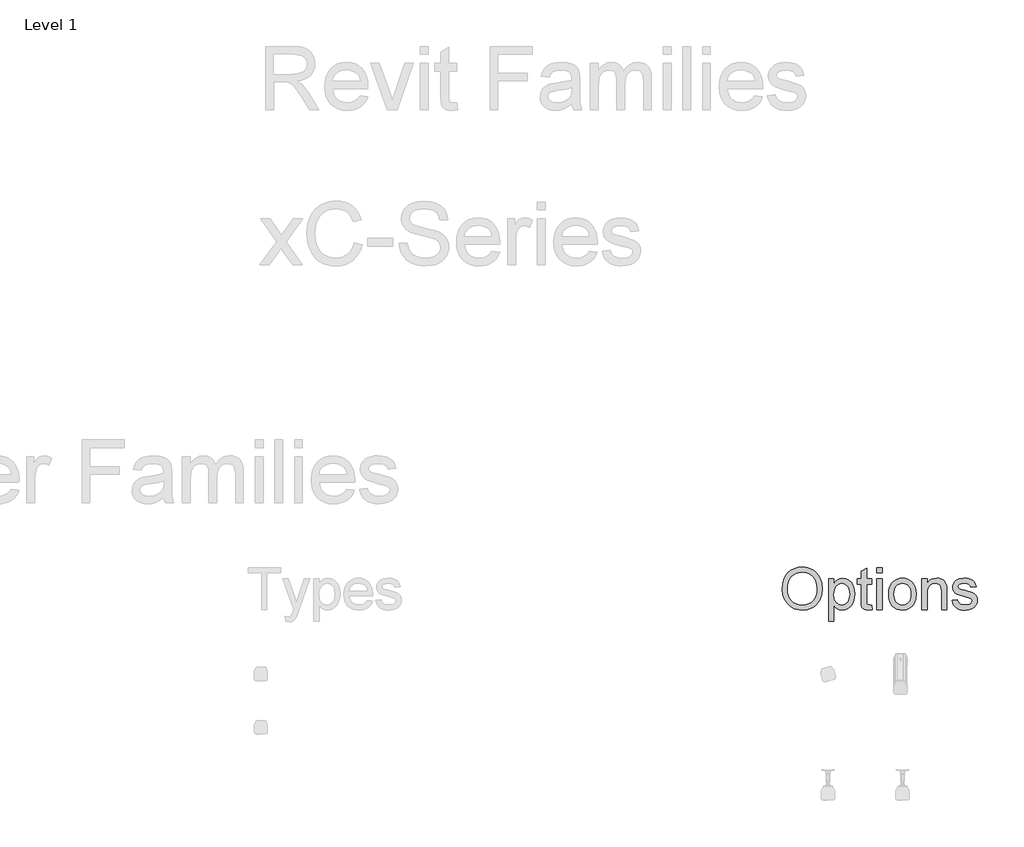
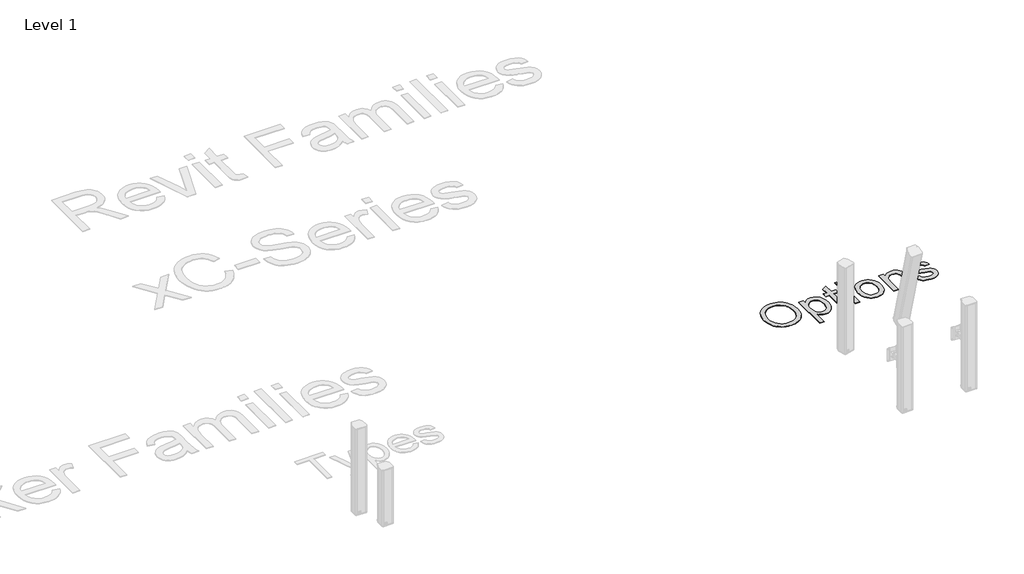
# One storey, part 8 of 8: 2 proxies.
"""IFC4 building model written with IfcOpenShell, lengths in millimetres."""

from ifc_helpers import new_model, si_unit, origin, origin_with_axes, place, context, project, spatial, polyline, outline, extrude, element, save

model = new_model("IFC4")

# Units and contexts
model_context = context("Model", 3, world=origin())
ifc_project = project(units=[si_unit("LENGTHUNIT", "METRE", prefix="MILLI")], contexts=[model_context])

# Site, building, storey
site = spatial("IfcSite", under=ifc_project)
building = spatial("IfcBuilding", under=site)
storey = spatial("IfcBuildingStorey", under=building, Name="Level 1", Elevation=0.0)

# Proxies
placement = place(None, origin())
element("IfcBuildingElementProxy", 1, Name="400mm Arial", ObjectType="400mm Arial", at=placement, inside=storey, context=model_context, shape_type="SweptSolid", body=[
    extrude(outline(polyline([(-6462.261333, 17542.0194987), (-6458.9974836, 17587.9704339), (-6449.2059353, 17628.6489968), (-6432.8866881, 17664.0551876), (-6410.0397421, 17694.1890063), (-6382.0340011, 17718.2494348), (-6350.238369, 17735.4354552), (-6314.6528458, 17745.7470674), (-6275.2774315, 17749.1842715), (-6248.9215484, 17747.57028), (-6223.892725, 17742.7283055), (-6200.1909613, 17734.6583482), (-6177.8162572, 17723.3604078), (-6157.3962762, 17709.1752161), (-6139.5586815, 17692.4435044), (-6124.3034732, 17673.1652729), (-6111.6306512, 17651.3405215), (-6101.671726, 17627.4654031), (-6094.558208, 17602.0360707), (-6088.8673936, 17546.5147639), (-6094.8570953, 17490.2522165), (-6102.3442224, 17464.4701971), (-6112.8262004, 17440.2543472), (-6126.0549528, 17418.2442857), (-6141.7824031, 17399.0796313), (-6160.0085513, 17382.7603841), (-6180.7333974, 17369.2865442), (-6226.4153339, 17351.2098396), (-6275.5643633, 17345.1842715), (-6302.3805328, 17346.8490738), (-6327.7381322, 17351.8434807), (-6351.6371616, 17360.1674923), (-6374.0776209, 17371.8211086), (-6394.473691, 17386.3530096), (-6412.2395527, 17403.3118756), (-6427.3752061, 17422.6977066), (-6439.8806512, 17444.5105025), (-6456.6661625, 17491.91403), (-6462.261333, 17542.0194987)]), holes=[polyline([(-6413.291636, 17541.541279), (-6410.843749, 17509.0761393), (-6403.5000877, 17480.2574249), (-6391.2606524, 17455.0851356), (-6374.1254429, 17433.5592715), (-6353.2959862, 17416.3194514), (-6329.9738093, 17404.0052942), (-6304.1589123, 17396.6167999), (-6275.8512951, 17394.1539684), (-6247.0594805, 17396.6407108), (-6220.9397184, 17404.1009381), (-6197.4920089, 17416.5346502), (-6176.7163519, 17433.9418472), (-6159.7066751, 17455.92202), (-6147.5569059, 17482.0746597), (-6140.2670444, 17512.3997662), (-6137.8370906, 17546.8973396), (-6141.9976019, 17590.2479552), (-6154.479136, 17627.7164684), (-6174.9588946, 17658.3583955), (-6203.1140792, 17681.2292525), (-6237.0796332, 17695.468244), (-6274.9904997, 17700.2145745), (-6302.3147776, 17697.9280866), (-6327.6663993, 17691.0686228), (-6351.0453647, 17679.6361831), (-6372.4516739, 17663.6307677), (-6390.3191573, 17642.2812471), (-6403.0816455, 17614.8164921), (-6410.7391384, 17581.2365027), (-6413.291636, 17541.541279)])]), origin_with_axes(), (0.0, 0.0, 1.0), 5.0),
    extrude(outline(polyline([(-6027.6552724, 17241.1236654), (-6027.6552724, 17639.0024533), (-5978.6855754, 17639.0024533), (-5978.6855754, 17590.9891957), (-5962.7130375, 17614.6730262), (-5944.8276209, 17631.590048), (-5923.9772421, 17641.740261), (-5899.1098179, 17645.1236654), (-5865.9931038, 17640.3892904), (-5837.0369012, 17626.1861654), (-5813.4606701, 17603.3750858), (-5796.4838709, 17572.8168472), (-5786.2260584, 17536.7351711), (-5782.8067875, 17497.353779), (-5786.6684116, 17455.4736891), (-5798.2532838, 17418.0171313), (-5817.1907838, 17386.885029), (-5843.1102913, 17363.9783055), (-5873.2979097, 17349.88278), (-5905.0397421, 17345.1842715), (-5927.5519343, 17348.328566), (-5947.6491171, 17357.7614495), (-5964.8530707, 17372.000441), (-5978.6855754, 17389.5630593), (-5978.6855754, 17241.1236654), (-6027.6552724, 17241.1236654)]), holes=[polyline([(-5978.6855754, 17492.8585139), (-5973.3892923, 17448.9579457), (-5966.7689384, 17431.9572355), (-5957.5004429, 17418.2562411), (-5934.0557222, 17400.1795366), (-5920.6386708, 17395.6603605), (-5906.0918254, 17394.1539684), (-5891.3357589, 17395.7141602), (-5877.6736199, 17400.3947355), (-5853.6311247, 17419.1170366), (-5844.0697196, 17433.3141839), (-5837.2401446, 17450.9425574), (-5831.7764845, 17496.4929836), (-5837.1086341, 17540.1544419), (-5843.7738212, 17557.2866625), (-5853.105083, 17571.2865442), (-5876.5139372, 17589.9371124), (-5889.778556, 17594.5997544), (-5904.0833027, 17596.1539684), (-5918.3432163, 17594.5011216), (-5931.7602677, 17589.5425811), (-5956.0657838, 17569.7084192), (-5965.9619426, 17554.9882191), (-5973.0306275, 17537.2731682), (-5977.2718384, 17516.5632665), (-5978.6855754, 17492.8585139)])]), origin_with_axes(), (0.0, 0.0, 1.0), 5.0),
    extrude(outline(polyline([(-5623.6552724, 17392.1454457), (-5617.5340603, 17349.8708245), (-5654.1656891, 17345.1842715), (-5677.6701872, 17347.2167052), (-5695.1969391, 17353.3140063), (-5707.5828292, 17362.7110233), (-5715.6647421, 17374.6426048), (-5720.1121853, 17395.1343188), (-5721.5946663, 17430.2117336), (-5721.5946663, 17590.0327563), (-5758.3219391, 17590.0327563), (-5758.3219391, 17639.0024533), (-5721.5946663, 17639.0024533), (-5721.5946663, 17708.918173), (-5672.6249694, 17737.7069987), (-5672.6249694, 17639.0024533), (-5623.6552724, 17639.0024533), (-5623.6552724, 17590.0327563), (-5672.6249694, 17590.0327563), (-5672.6249694, 17431.6463927), (-5670.042583, 17406.3963927), (-5661.6737383, 17397.4536843), (-5644.9838709, 17394.1539684), (-5623.6552724, 17392.1454457)])), origin_with_axes(), (0.0, 0.0, 1.0), 5.0),
    extrude(outline(polyline([(-5574.6855754, 17351.3054836), (-5574.6855754, 17639.0024533), (-5525.7158785, 17639.0024533), (-5525.7158785, 17351.3054836), (-5574.6855754, 17351.3054836)])), origin_with_axes(), (0.0, 0.0, 1.0), 5.0),
    extrude(outline(polyline([(-5574.6855754, 17694.0933624), (-5574.6855754, 17743.0630593), (-5525.7158785, 17743.0630593), (-5525.7158785, 17694.0933624), (-5574.6855754, 17694.0933624)])), origin_with_axes(), (0.0, 0.0, 1.0), 5.0),
    extrude(outline(polyline([(-5464.5037572, 17495.1539684), (-5461.8556157, 17532.4132606), (-5453.911191, 17564.5197355), (-5440.6704831, 17591.4733931), (-5422.1334921, 17613.2742336), (-5403.4709684, 17627.20836), (-5382.871655, 17637.1613074), (-5360.3355518, 17643.1330759), (-5335.8626588, 17645.1236654), (-5308.8462348, 17642.6996893), (-5284.4181749, 17635.427761), (-5262.5784791, 17623.3078806), (-5243.3271474, 17606.340048), (-5227.6146415, 17585.0981268), (-5216.391423, 17560.1559807), (-5209.6574919, 17531.5136098), (-5207.4128482, 17499.1710139), (-5211.3820716, 17449.6991862), (-5223.2897421, 17412.0393851), (-5242.7891502, 17383.8363785), (-5269.5335868, 17362.7349343), (-5301.2993302, 17349.5719372), (-5335.8626588, 17345.1842715), (-5363.273614, 17347.5992809), (-5387.9288283, 17354.8443093), (-5409.8283015, 17366.9193567), (-5428.9720338, 17383.824423), (-5444.5171628, 17405.2725764), (-5455.6208264, 17430.9768851), (-5462.2830245, 17460.9373491), (-5464.5037572, 17495.1539684)]), holes=[polyline([(-5415.5340603, 17495.2496124), (-5414.1173344, 17471.4970378), (-5409.8671569, 17450.9306019), (-5402.7835276, 17433.5503048), (-5392.8664466, 17419.3561465), (-5380.8033548, 17408.3301936), (-5367.2816929, 17400.4545129), (-5352.3014608, 17395.7291045), (-5335.8626588, 17394.1539684), (-5319.5075451, 17395.7380712), (-5304.5870906, 17400.4903794), (-5291.1012951, 17408.4108931), (-5279.0501588, 17419.4996124), (-5269.1330778, 17433.8342478), (-5262.0494485, 17451.4925101), (-5257.799271, 17472.4743993), (-5256.3825451, 17496.7799154), (-5257.8082376, 17519.7792939), (-5262.085315, 17539.8077326), (-5269.2137774, 17556.8652314), (-5279.1936247, 17570.9517904), (-5291.2895941, 17581.9777433), (-5304.766423, 17589.8534239), (-5319.6241112, 17594.5788323), (-5335.8626588, 17596.1539684), (-5352.3014608, 17594.58481), (-5367.2816929, 17589.8773349), (-5380.8033548, 17582.031543), (-5392.8664466, 17571.0474343), (-5402.7835276, 17556.8951202), (-5409.8671569, 17539.5447118), (-5414.1173344, 17518.9962092), (-5415.5340603, 17495.2496124)])]), origin_with_axes(), (0.0, 0.0, 1.0), 5.0),
    extrude(outline(polyline([(-5152.3219391, 17351.3054836), (-5152.3219391, 17639.0024533), (-5103.3522421, 17639.0024533), (-5103.3522421, 17598.8319987), (-5086.3395764, 17619.0846029), (-5065.9076398, 17633.5507487), (-5042.0564324, 17642.2304362), (-5014.7859542, 17645.1236654), (-4990.647815, 17642.7923444), (-4968.5421095, 17635.7983813), (-4950.1067402, 17625.0145271), (-4936.9796095, 17611.3135328), (-4928.0727677, 17594.7312648), (-4922.2982648, 17575.3035896), (-4919.7158785, 17527.9598396), (-4919.7158785, 17351.3054836), (-4968.6855754, 17351.3054836), (-4968.6855754, 17521.3604078), (-4970.0963235, 17546.6821408), (-4974.3285679, 17564.6871124), (-4982.1355044, 17577.5870887), (-4994.2703292, 17587.5938358), (-5009.8244249, 17594.0139353), (-5027.8891739, 17596.1539684), (-5056.5704002, 17591.3478605), (-5081.0193822, 17576.9295366), (-5090.7900084, 17565.1593543), (-5097.7690271, 17549.0732393), (-5101.9564384, 17528.6711914), (-5103.3522421, 17503.9532108), (-5103.3522421, 17351.3054836), (-5152.3219391, 17351.3054836)])), origin_with_axes(), (0.0, 0.0, 1.0), 5.0),
    extrude(outline(polyline([(-4870.7461815, 17437.0024533), (-4821.7764845, 17443.1236654), (-4814.0532364, 17422.1776427), (-4799.1088709, 17406.7789684), (-4776.847744, 17397.3102184), (-4747.1742118, 17394.1539684), (-4717.8593444, 17397.0471976), (-4697.2480754, 17405.7268851), (-4685.0534732, 17418.3040631), (-4680.9886057, 17432.8897639), (-4685.0773841, 17445.371298), (-4697.3437194, 17454.8878699), (-4747.7480754, 17468.8518851), (-4821.4895527, 17492.8106919), (-4840.1520764, 17504.8498728), (-4853.6737383, 17520.7865442), (-4861.8871616, 17539.6044893), (-4864.6249694, 17560.2874911), (-4862.4251588, 17579.2608576), (-4855.8257269, 17596.775654), (-4845.4244485, 17612.1384618), (-4831.8190982, 17624.6558624), (-4800.6869959, 17639.1459192), (-4758.5558406, 17645.1236654), (-4726.6824978, 17642.7206114), (-4698.9696663, 17635.5114495), (-4676.6846285, 17624.2015536), (-4661.0946663, 17609.496298), (-4650.7651209, 17590.3077326), (-4644.261333, 17565.5479078), (-4693.23103, 17559.4266957), (-4699.4120196, 17574.8373254), (-4711.6424883, 17586.4461086), (-4730.0419911, 17593.7270035), (-4754.730083, 17596.1539684), (-4782.8494012, 17593.8346029), (-4801.5956133, 17586.8765063), (-4812.1403576, 17576.8338927), (-4815.6552724, 17565.260976), (-4809.8209921, 17551.010029), (-4791.5529997, 17540.2022639), (-4749.3740224, 17529.7770745), (-4677.4976019, 17506.7268851), (-4658.51228, 17495.7039211), (-4644.1178671, 17480.6160896), (-4635.0436483, 17461.4155688), (-4632.0189088, 17438.0545366), (-4635.56969, 17413.9044419), (-4646.2220338, 17391.1890063), (-4663.5694533, 17371.6895982), (-4687.2054618, 17357.1875858), (-4715.7551777, 17348.1851), (-4747.8437194, 17345.1842715), (-4774.1996024, 17346.630886), (-4797.2199031, 17350.9707298), (-4816.9046214, 17358.2038027), (-4833.2537572, 17368.3301048), (-4846.6080423, 17381.3018141), (-4857.308208, 17397.0711086), (-4865.3542544, 17415.6379883), (-4870.7461815, 17437.0024533)])), origin_with_axes(), (0.0, 0.0, 1.0), 5.0),
])
element("IfcBuildingElementProxy", 2, Name="600mm Arial", ObjectType="600mm Arial", at=placement, inside=storey, context=model_context, shape_type="SweptSolid", body=[
    extrude(outline(polyline([(-11309.2935955, 22041.6162982), (-11309.2935955, 22632.385529), (-11054.7262878, 22632.385529), (-10986.3068167, 22628.401154), (-10936.5291724, 22616.448029), (-10917.3194369, 22606.9468271), (-10900.1469609, 22594.3807213), (-10885.0117446, 22578.7497117), (-10871.9137878, 22560.0537982), (-10861.3443768, 22539.2980891), (-10853.7947974, 22517.4876924), (-10847.755134, 22470.7028367), (-10850.2566364, 22440.3602886), (-10857.7611436, 22412.5057213), (-10870.2686556, 22387.1391347), (-10887.7791724, 22364.260529), (-10910.5180547, 22344.6000722), (-10938.7106628, 22328.8879328), (-10972.356997, 22317.1241107), (-11011.4570571, 22309.3086059), (-10987.1181148, 22293.4071636), (-10969.4859032, 22277.7220674), (-10909.630134, 22201.7124521), (-10811.1205186, 22041.6162982), (-10896.9378263, 22041.6162982), (-10973.8128263, 22164.0682213), (-11029.3416724, 22245.1259136), (-11049.9847013, 22268.7617309), (-11068.3560955, 22283.4191828), (-11103.4762878, 22297.4816828), (-11146.3128263, 22300.0778367), (-11235.4474417, 22300.0778367), (-11235.4474417, 22041.6162982), (-11309.2935955, 22041.6162982)]), holes=[polyline([(-11235.4474417, 22373.9239905), (-11070.1589801, 22373.9239905), (-11022.6890282, 22376.5381732), (-10985.8560955, 22384.3807213), (-10958.1277301, 22397.9744713), (-10937.9714801, 22417.8422597), (-10925.6938359, 22441.8747117), (-10921.6012878, 22467.9624521), (-10923.5529104, 22486.8476684), (-10929.4077782, 22503.9840867), (-10939.1658912, 22519.3717069), (-10952.8272494, 22533.010529), (-10970.7073575, 22544.1793992), (-10993.1217205, 22552.1571636), (-11020.0703383, 22556.9438222), (-11051.5532109, 22558.5393751), (-11235.4474417, 22558.5393751), (-11235.4474417, 22373.9239905)])]), origin_with_axes(), (0.0, 0.0, 1.0), 5.0),
    extrude(outline(polyline([(-10424.005134, 22170.8470674), (-10351.6012878, 22161.6162982), (-10362.7025498, 22132.6168992), (-10377.6890282, 22107.0610097), (-10396.5607229, 22084.9486299), (-10419.317634, 22066.2797597), (-10445.7253864, 22051.4510338), (-10475.5496051, 22040.8590867), (-10508.7902902, 22034.5039184), (-10545.4474417, 22032.385529), (-10591.2677542, 22036.0408775), (-10632.0940763, 22047.0069232), (-10667.926408, 22065.283666), (-10698.7647494, 22090.8711059), (-10723.5634273, 22123.0571035), (-10741.2767686, 22161.1295194), (-10751.9047734, 22205.0883535), (-10755.4474417, 22254.9336059), (-10751.8687157, 22306.4690626), (-10741.1325378, 22351.8927405), (-10723.238908, 22391.2046396), (-10698.1878263, 22424.4047597), (-10667.4306148, 22450.7809617), (-10632.4185955, 22469.6211059), (-10593.1517686, 22480.9251924), (-10549.630134, 22484.6932213), (-10507.5102422, 22480.9342069), (-10469.4197974, 22469.6571636), (-10435.3587998, 22450.8620915), (-10405.3272494, 22424.5489905), (-10380.8125258, 22391.4209857), (-10363.302009, 22352.1812021), (-10352.7956989, 22306.8296396), (-10349.2935955, 22255.3662982), (-10349.7262878, 22235.4624521), (-10681.6012878, 22235.4624521), (-10677.3239441, 22205.994303), (-10668.8188359, 22180.1860097), (-10656.0859633, 22158.0375722), (-10639.1253263, 22139.5489905), (-10618.8744248, 22124.9726684), (-10596.270759, 22114.5610097), (-10571.3143287, 22108.3140146), (-10544.005134, 22106.2316828), (-10504.7022494, 22110.0898559), (-10471.6012878, 22121.6643751), (-10444.7022494, 22141.6763944), (-10424.005134, 22170.8470674)]), holes=[polyline([(-10681.6012878, 22309.3086059), (-10423.1397494, 22309.3086059), (-10433.1277301, 22348.323029), (-10441.7184753, 22363.6655771), (-10452.7070571, 22376.2316828), (-10472.8452782, 22391.3759136), (-10495.7599417, 22402.1932213), (-10521.4510474, 22408.6836059), (-10549.9185955, 22410.8470674), (-10575.8846412, 22409.1208054), (-10599.6962398, 22403.9420194), (-10621.3533912, 22395.3107093), (-10640.8560955, 22383.2268751), (-10657.2217806, 22368.2494112), (-10669.4678744, 22350.9372117), (-10677.5943768, 22331.2902766), (-10681.6012878, 22309.3086059)])]), origin_with_axes(), (0.0, 0.0, 1.0), 5.0),
    extrude(outline(polyline([(-10169.005134, 22041.6162982), (-10321.6012878, 22475.4624521), (-10243.4282109, 22475.4624521), (-10150.9762878, 22215.5586059), (-10123.1397494, 22128.1547597), (-10095.880134, 22210.6547597), (-10002.8512878, 22475.4624521), (-9924.6782109, 22475.4624521), (-10075.3993648, 22041.6162982), (-10169.005134, 22041.6162982)])), origin_with_axes(), (0.0, 0.0, 1.0), 5.0),
    extrude(outline(polyline([(-9860.0628263, 22041.6162982), (-9860.0628263, 22475.4624521), (-9786.2166724, 22475.4624521), (-9786.2166724, 22041.6162982), (-9860.0628263, 22041.6162982)])), origin_with_axes(), (0.0, 0.0, 1.0), 5.0),
    extrude(outline(polyline([(-9860.0628263, 22558.5393751), (-9860.0628263, 22632.385529), (-9786.2166724, 22632.385529), (-9786.2166724, 22558.5393751), (-9860.0628263, 22558.5393751)])), origin_with_axes(), (0.0, 0.0, 1.0), 5.0),
    extrude(outline(polyline([(-9518.5243648, 22103.2028367), (-9509.2935955, 22039.4528367), (-9564.5339801, 22032.385529), (-9599.9786917, 22035.4504328), (-9626.4089801, 22044.6451444), (-9645.0868648, 22058.8158174), (-9657.2743648, 22076.8086059), (-9663.9810955, 22107.7100482), (-9666.2166724, 22160.6066828), (-9666.2166724, 22401.6162982), (-9721.6012878, 22401.6162982), (-9721.6012878, 22475.4624521), (-9666.2166724, 22475.4624521), (-9666.2166724, 22580.8951444), (-9592.3705186, 22624.3086059), (-9592.3705186, 22475.4624521), (-9518.5243648, 22475.4624521), (-9518.5243648, 22401.6162982), (-9592.3705186, 22401.6162982), (-9592.3705186, 22162.7701444), (-9588.4762878, 22124.6932213), (-9575.8560955, 22111.2076444), (-9565.2010474, 22107.4756732), (-9550.6878263, 22106.2316828), (-9518.5243648, 22103.2028367)])), origin_with_axes(), (0.0, 0.0, 1.0), 5.0),
    extrude(outline(polyline([(-9204.6782109, 22041.6162982), (-9204.6782109, 22632.385529), (-8807.755134, 22632.385529), (-8807.755134, 22558.5393751), (-9130.8320571, 22558.5393751), (-9130.8320571, 22383.1547597), (-8853.9089801, 22383.1547597), (-8853.9089801, 22309.3086059), (-9130.8320571, 22309.3086059), (-9130.8320571, 22041.6162982), (-9204.6782109, 22041.6162982)])), origin_with_axes(), (0.0, 0.0, 1.0), 5.0),
    extrude(outline(polyline([(-8438.5243648, 22097.0009136), (-8473.8068167, 22066.7485097), (-8510.1349417, 22046.9528367), (-8548.3380667, 22036.0273559), (-8589.2455186, 22032.385529), (-8622.1256268, 22034.5760338), (-8650.958259, 22041.1475482), (-8675.7434152, 22052.1000722), (-8696.4810955, 22067.4336059), (-8712.855795, 22086.1745915), (-8724.552009, 22107.3494713), (-8731.5697373, 22130.9582453), (-8733.9089801, 22157.0009136), (-8730.3753263, 22187.6138944), (-8719.7743648, 22215.4143751), (-8703.4222013, 22239.2124521), (-8682.6349417, 22257.8182213), (-8658.2058551, 22271.8807213), (-8630.9282109, 22282.0489905), (-8567.0339801, 22293.1547597), (-8491.5291724, 22304.8374521), (-8438.9570571, 22318.5393751), (-8438.5243648, 22334.9816828), (-8443.6084994, 22367.9384136), (-8449.9636676, 22380.1439424), (-8458.8609032, 22389.5009136), (-8474.239509, 22398.8398559), (-8492.9714801, 22405.510529), (-8540.4955186, 22410.8470674), (-8584.4859032, 22407.2953847), (-8615.2070571, 22396.6403367), (-8636.1565763, 22376.9348078), (-8650.8320571, 22346.2316828), (-8724.6782109, 22355.4624521), (-8711.8597013, 22395.8470674), (-8692.7310955, 22427.5778367), (-8665.5075378, 22451.8446636), (-8628.4041724, 22469.8374521), (-8583.0255667, 22480.979279), (-8530.9762878, 22484.6932213), (-8481.0544128, 22481.4119713), (-8441.4810955, 22471.5682213), (-8411.6433551, 22456.7665386), (-8390.9282109, 22438.6114905), (-8377.1902301, 22416.1655771), (-8368.2839801, 22388.4912982), (-8364.6782109, 22323.8759136), (-8364.6782109, 22232.0009136), (-8360.9282109, 22103.7076444), (-8355.3753263, 22071.994904), (-8346.2166724, 22041.6162982), (-8420.0628263, 22041.6162982), (-8431.8897494, 22067.2893751), (-8438.5243648, 22097.0009136)]), holes=[polyline([(-8438.5243648, 22244.6932213), (-8488.1397494, 22232.3975482), (-8557.6589801, 22222.0489905), (-8621.192634, 22210.0778367), (-8637.7250859, 22201.8927405), (-8649.9666724, 22190.6066828), (-8657.5387878, 22177.0850482), (-8660.0628263, 22162.1932213), (-8654.5640282, 22140.2340867), (-8638.067634, 22122.2412982), (-8610.9342205, 22110.2340867), (-8573.5243648, 22106.2316828), (-8533.8609032, 22110.6487501), (-8498.8128263, 22123.8999521), (-8470.3993648, 22143.4251924), (-8450.6397494, 22166.6643751), (-8441.8777301, 22190.6066828), (-8438.9570571, 22223.7797597), (-8438.5243648, 22244.6932213)])]), origin_with_axes(), (0.0, 0.0, 1.0), 5.0),
    extrude(outline(polyline([(-8263.1397494, 22041.6162982), (-8263.1397494, 22475.4624521), (-8189.2935955, 22475.4624521), (-8189.2935955, 22404.0682213), (-8167.0820571, 22436.8626924), (-8138.5243648, 22462.5537982), (-8104.5940763, 22479.1583655), (-8066.2647494, 22484.6932213), (-8025.1950378, 22479.0501924), (-8007.7160715, 22471.9964064), (-7992.2743648, 22462.1211059), (-7967.6830186, 22435.0237501), (-7951.6012878, 22398.8759136), (-7924.6842205, 22436.4209857), (-7893.9810955, 22463.2388944), (-7859.4919128, 22479.3296396), (-7821.2166724, 22484.6932213), (-7791.653872, 22482.4621516), (-7765.7058551, 22475.7689424), (-7743.372622, 22464.6135939), (-7724.6541724, 22448.9961059), (-7709.856997, 22428.73619), (-7699.2875859, 22403.6535578), (-7692.9459393, 22373.7482093), (-7690.8320571, 22339.0201444), (-7690.8320571, 22041.6162982), (-7764.6782109, 22041.6162982), (-7764.6782109, 22307.2893751), (-7766.3909513, 22344.1223078), (-7771.5291724, 22368.948029), (-7781.1565763, 22385.9492309), (-7796.3368648, 22399.3086059), (-7815.8621051, 22407.9624521), (-7838.5243648, 22410.8470674), (-7859.4513479, 22408.9991107), (-7878.5303744, 22403.4552405), (-7895.7614441, 22394.2154569), (-7911.1445571, 22381.2797597), (-7923.7962998, 22364.2695434), (-7932.833259, 22342.8062021), (-7938.2554345, 22316.8897357), (-7940.0628263, 22286.5201444), (-7940.0628263, 22041.6162982), (-8013.9089801, 22041.6162982), (-8013.9089801, 22315.510529), (-8018.1818167, 22357.2653367), (-8031.0003263, 22387.0489905), (-8040.9116845, 22397.4606492), (-8053.5544128, 22404.8975482), (-8068.9285114, 22409.3596876), (-8087.0339801, 22410.8470674), (-8115.4834994, 22406.8807213), (-8141.6974417, 22394.9816828), (-8163.3320571, 22375.4384136), (-8178.0435955, 22348.5393751), (-8186.4810955, 22311.2196636), (-8189.2935955, 22260.4143751), (-8189.2935955, 22041.6162982), (-8263.1397494, 22041.6162982)])), origin_with_axes(), (0.0, 0.0, 1.0), 5.0),
    extrude(outline(polyline([(-7580.0628263, 22041.6162982), (-7580.0628263, 22475.4624521), (-7506.2166724, 22475.4624521), (-7506.2166724, 22041.6162982), (-7580.0628263, 22041.6162982)])), origin_with_axes(), (0.0, 0.0, 1.0), 5.0),
    extrude(outline(polyline([(-7580.0628263, 22558.5393751), (-7580.0628263, 22632.385529), (-7506.2166724, 22632.385529), (-7506.2166724, 22558.5393751), (-7580.0628263, 22558.5393751)])), origin_with_axes(), (0.0, 0.0, 1.0), 5.0),
    extrude(outline(polyline([(-7395.4474417, 22041.6162982), (-7395.4474417, 22632.385529), (-7321.6012878, 22632.385529), (-7321.6012878, 22041.6162982), (-7395.4474417, 22041.6162982)])), origin_with_axes(), (0.0, 0.0, 1.0), 5.0),
    extrude(outline(polyline([(-7210.8320571, 22041.6162982), (-7210.8320571, 22475.4624521), (-7136.9859032, 22475.4624521), (-7136.9859032, 22041.6162982), (-7210.8320571, 22041.6162982)])), origin_with_axes(), (0.0, 0.0, 1.0), 5.0),
    extrude(outline(polyline([(-7210.8320571, 22558.5393751), (-7210.8320571, 22632.385529), (-7136.9859032, 22632.385529), (-7136.9859032, 22558.5393751), (-7210.8320571, 22558.5393751)])), origin_with_axes(), (0.0, 0.0, 1.0), 5.0),
    extrude(outline(polyline([(-6722.4666724, 22170.8470674), (-6650.0628263, 22161.6162982), (-6661.1640883, 22132.6168992), (-6676.1505667, 22107.0610097), (-6695.0222614, 22084.9486299), (-6717.7791724, 22066.2797597), (-6744.1869248, 22051.4510338), (-6774.0111436, 22040.8590867), (-6807.2518287, 22034.5039184), (-6843.9089801, 22032.385529), (-6889.7292926, 22036.0408775), (-6930.5556148, 22047.0069232), (-6966.3879465, 22065.283666), (-6997.2262878, 22090.8711059), (-7022.0249657, 22123.0571035), (-7039.7383071, 22161.1295194), (-7050.3663119, 22205.0883535), (-7053.9089801, 22254.9336059), (-7050.3302542, 22306.4690626), (-7039.5940763, 22351.8927405), (-7021.7004465, 22391.2046396), (-6996.6493648, 22424.4047597), (-6965.8921532, 22450.7809617), (-6930.880134, 22469.6211059), (-6891.6133071, 22480.9251924), (-6848.0916724, 22484.6932213), (-6805.9717806, 22480.9342069), (-6767.8813359, 22469.6571636), (-6733.8203383, 22450.8620915), (-6703.7887878, 22424.5489905), (-6679.2740643, 22391.4209857), (-6661.7635474, 22352.1812021), (-6651.2572373, 22306.8296396), (-6647.755134, 22255.3662982), (-6648.1878263, 22235.4624521), (-6980.0628263, 22235.4624521), (-6975.7854825, 22205.994303), (-6967.2803744, 22180.1860097), (-6954.5475018, 22158.0375722), (-6937.5868648, 22139.5489905), (-6917.3359633, 22124.9726684), (-6894.7322974, 22114.5610097), (-6869.7758672, 22108.3140146), (-6842.4666724, 22106.2316828), (-6803.1637878, 22110.0898559), (-6770.0628263, 22121.6643751), (-6743.1637878, 22141.6763944), (-6722.4666724, 22170.8470674)]), holes=[polyline([(-6980.0628263, 22309.3086059), (-6721.6012878, 22309.3086059), (-6731.5892686, 22348.323029), (-6740.1800138, 22363.6655771), (-6751.1685955, 22376.2316828), (-6771.3068167, 22391.3759136), (-6794.2214801, 22402.1932213), (-6819.9125859, 22408.6836059), (-6848.380134, 22410.8470674), (-6874.3461797, 22409.1208054), (-6898.1577782, 22403.9420194), (-6919.8149297, 22395.3107093), (-6939.317634, 22383.2268751), (-6955.6833191, 22368.2494112), (-6967.9294128, 22350.9372117), (-6976.0559152, 22331.2902766), (-6980.0628263, 22309.3086059)])]), origin_with_axes(), (0.0, 0.0, 1.0), 5.0),
    extrude(outline(polyline([(-6601.6012878, 22170.8470674), (-6527.755134, 22180.0778367), (-6523.2929946, 22163.2388944), (-6516.1084994, 22148.4912982), (-6506.2016484, 22135.8350482), (-6493.5724417, 22125.2701444), (-6478.1848215, 22116.9408174), (-6460.0027301, 22110.9912982), (-6415.255134, 22106.2316828), (-6371.0484032, 22110.5946636), (-6353.8669128, 22116.0483896), (-6339.9666724, 22123.6836059), (-6321.5772494, 22142.6499521), (-6315.4474417, 22164.6451444), (-6316.988908, 22174.6150963), (-6321.6133071, 22183.4672597), (-6340.1109032, 22197.8182213), (-6367.7671532, 22207.1932213), (-6416.1205186, 22218.8759136), (-6483.5123455, 22238.3650963), (-6527.3224417, 22255.0057213), (-6555.4654705, 22273.1607694), (-6575.8560955, 22297.1932213), (-6588.2419128, 22325.5706251), (-6592.3705186, 22356.760529), (-6589.0532109, 22385.3723078), (-6579.1012878, 22411.7845674), (-6563.4161917, 22434.9516347), (-6542.8993648, 22453.8278367), (-6522.5087398, 22465.7088463), (-6495.9522494, 22475.6787982), (-6465.2491244, 22482.4396155), (-6432.4185955, 22484.6932213), (-6384.3536917, 22481.0694232), (-6342.5628263, 22470.198029), (-6308.9570571, 22453.1427405), (-6285.4474417, 22430.9672597), (-6269.8705186, 22402.0309617), (-6260.0628263, 22364.6932213), (-6333.9089801, 22355.4624521), (-6343.2298936, 22378.7016347), (-6361.6734032, 22396.2076444), (-6389.4197974, 22407.1872117), (-6426.6493648, 22410.8470674), (-6469.0532109, 22407.3494713), (-6497.3224417, 22396.8566828), (-6513.223884, 22381.7124521), (-6518.5243648, 22364.260529), (-6516.3248455, 22352.9023559), (-6509.7262878, 22342.7701444), (-6498.4402301, 22333.7196636), (-6482.1782109, 22326.4720674), (-6418.5724417, 22310.7509136), (-6310.1830186, 22275.9912982), (-6281.5532109, 22259.3687021), (-6259.8464801, 22236.6162982), (-6246.1625859, 22207.6619713), (-6241.6012878, 22172.4336059), (-6246.9558551, 22136.0153367), (-6263.0195571, 22101.760529), (-6289.1794128, 22072.3554809), (-6324.8224417, 22050.4864905), (-6367.8753263, 22036.9107694), (-6416.2647494, 22032.385529), (-6456.0093407, 22034.5670194), (-6490.723884, 22041.1114905), (-6520.4083792, 22052.0189424), (-6545.0628263, 22067.2893751), (-6565.2010474, 22086.8506732), (-6581.3368648, 22110.6307213), (-6593.4702782, 22138.6295194), (-6601.6012878, 22170.8470674)])), origin_with_axes(), (0.0, 0.0, 1.0), 5.0),
    extrude(outline(polyline([(-11364.6782109, 20583.1547597), (-11206.8897494, 20801.2316828), (-11355.4474417, 21017.0009136), (-11266.6012878, 21017.0009136), (-11194.9185955, 20913.1547597), (-11161.4570571, 20864.1162982), (-11132.4666724, 20904.2124521), (-11050.8320571, 21017.0009136), (-10961.9859032, 21017.0009136), (-11118.0435955, 20801.2316828), (-10967.755134, 20583.1547597), (-11056.6012878, 20583.1547597), (-11147.0339801, 20714.260529), (-11163.6205186, 20738.2028367), (-11275.8320571, 20583.1547597), (-11364.6782109, 20583.1547597)])), origin_with_axes(), (0.0, 0.0, 1.0), 5.0),
    extrude(outline(polyline([(-10478.5243648, 20793.1547597), (-10404.6782109, 20774.1162982), (-10419.2905907, 20728.1923198), (-10438.7527301, 20688.0646155), (-10463.0646292, 20653.7331852), (-10492.2262878, 20625.198029), (-10525.5796532, 20602.7656372), (-10562.4666724, 20586.7425001), (-10602.8873455, 20577.1286179), (-10646.8416724, 20573.9239905), (-10691.8732229, 20576.3488703), (-10732.4967205, 20583.6235097), (-10768.7121652, 20595.7479088), (-10800.5195571, 20612.7220674), (-10828.3560955, 20634.2935819), (-10852.6589801, 20660.2100482), (-10873.4282109, 20690.4714665), (-10890.6637878, 20725.0778367), (-10904.1989441, 20762.5327646), (-10913.8669128, 20801.3398559), (-10919.6676941, 20841.4991107), (-10921.6012878, 20883.010529), (-10919.4152902, 20927.5507934), (-10912.8572974, 20969.1523559), (-10901.9273095, 21007.8152165), (-10886.6253263, 21043.5393751), (-10867.293896, 21075.7343872), (-10844.2755667, 21103.8098078), (-10817.5703383, 21127.7656372), (-10787.1782109, 21147.6018751), (-10754.1313359, 21163.1562622), (-10719.4618648, 21174.2665386), (-10683.1697974, 21180.9327045), (-10645.255134, 21183.1547597), (-10603.0180547, 21180.2791588), (-10564.2875859, 21171.6523559), (-10529.0637277, 21157.2743511), (-10497.3464801, 21137.1451444), (-10469.6586797, 21111.7965867), (-10446.5231628, 21081.760529), (-10427.9399297, 21047.0369713), (-10413.9089801, 21007.6259136), (-10487.755134, 20990.0297597), (-10499.3837398, 21019.0697237), (-10513.3560955, 21043.8819232), (-10529.6722013, 21064.4663583), (-10548.3320571, 21080.823029), (-10569.4438359, 21093.2854689), (-10593.1157109, 21102.1872117), (-10619.3476821, 21107.5282573), (-10648.1397494, 21109.3086059), (-10681.2677542, 21107.3344472), (-10711.5652301, 21101.4119713), (-10739.0321773, 21091.541178), (-10763.6685955, 21077.7220674), (-10785.1634873, 21060.5766347), (-10803.2058551, 21040.7268751), (-10817.7956989, 21018.1727886), (-10828.9330186, 20992.9143751), (-10843.0496051, 20938.8638944), (-10847.755134, 20883.1547597), (-10842.1842205, 20814.9336059), (-10835.2205787, 20784.2845674), (-10825.4714801, 20755.9432213), (-10812.7791724, 20730.4729689), (-10796.9859032, 20708.4372117), (-10778.0916724, 20689.8359497), (-10756.0964801, 20674.6691828), (-10732.0685354, 20662.9008535), (-10707.0760474, 20654.494904), (-10681.1190162, 20649.4513343), (-10654.1974417, 20647.7701444), (-10622.0925739, 20650.0598078), (-10592.5568167, 20656.9287982), (-10565.59017, 20668.3771155), (-10541.192634, 20684.4047597), (-10519.9411316, 20704.9396155), (-10502.4125859, 20729.9095674), (-10488.606997, 20759.3146155), (-10478.5243648, 20793.1547597)])), origin_with_axes(), (0.0, 0.0, 1.0), 5.0),
    extrude(outline(polyline([(-10349.2935955, 20758.5393751), (-10349.2935955, 20832.385529), (-10118.5243648, 20832.385529), (-10118.5243648, 20758.5393751), (-10349.2935955, 20758.5393751)])), origin_with_axes(), (0.0, 0.0, 1.0), 5.0),
    extrude(outline(polyline([(-10053.9089801, 20786.2316828), (-9980.0628263, 20786.2316828), (-9971.5892686, 20745.2521155), (-9956.2647494, 20712.3134136), (-9932.3584994, 20686.1715867), (-9898.1397494, 20665.5826444), (-9856.3128263, 20652.2232694), (-9809.5820571, 20647.7701444), (-9768.4402301, 20651.1415386), (-9732.4185955, 20661.2557213), (-9703.2298936, 20677.2653367), (-9682.5868648, 20698.323029), (-9670.3092205, 20722.4997117), (-9666.2166724, 20747.8662982), (-9669.2815763, 20772.5838463), (-9678.4762878, 20793.948029), (-9697.1541724, 20812.1751924), (-9728.6685955, 20827.4816828), (-9836.192634, 20855.6787982), (-9906.7755667, 20874.338654), (-9951.9378263, 20892.0970674), (-9988.6986436, 20916.9408174), (-10014.7503263, 20947.0489905), (-10030.2731628, 20981.7725482), (-10035.4474417, 21020.4624521), (-10033.8473816, 21042.4531372), (-10029.0472013, 21063.713654), (-10021.0469008, 21084.2440025), (-10009.8464801, 21104.0441828), (-9995.5721412, 21122.307404), (-9978.3500859, 21138.2268751), (-9958.1803143, 21151.8025963), (-9935.0628263, 21163.0345674), (-9883.1036917, 21178.1247117), (-9825.5916724, 21183.1547597), (-9763.2839801, 21177.8903367), (-9708.7647494, 21162.0970674), (-9684.9125859, 21150.3332453), (-9663.9810955, 21136.0994713), (-9645.9702782, 21119.3957453), (-9630.880134, 21100.2220674), (-9618.8278503, 21079.1373319), (-9609.9306148, 21056.7004328), (-9604.1884273, 21032.9113703), (-9601.6012878, 21007.7701444), (-9675.4474417, 21007.7701444), (-9680.3873455, 21031.3338463), (-9689.005134, 21051.8326444), (-9701.3008071, 21069.2665386), (-9717.2743648, 21083.635529), (-9737.223283, 21094.8675001), (-9761.4450378, 21102.8903367), (-9789.9396292, 21107.7040386), (-9822.7070571, 21109.3086059), (-9856.520158, 21107.7220674), (-9885.411384, 21102.9624521), (-9909.3807349, 21095.0297597), (-9928.4282109, 21083.9239905), (-9942.9414321, 21070.5736299), (-9953.3080186, 21055.9071636), (-9959.5279705, 21039.9245915), (-9961.6012878, 21022.6259136), (-9955.723884, 20994.2485097), (-9938.0916724, 20971.4239905), (-9921.9017686, 20961.2737501), (-9896.4089801, 20951.0153367), (-9817.5147494, 20930.1739905), (-9736.0964801, 20910.3783174), (-9686.8416724, 20893.1066828), (-9644.7443167, 20866.3158174), (-9628.4687758, 20850.5676203), (-9615.3753263, 20833.2509136), (-9605.3107229, 20814.4558415), (-9598.1217205, 20794.2725482), (-9592.3705186, 20749.7412982), (-9594.0246652, 20726.6418391), (-9598.9871051, 20704.2184617), (-9607.2578383, 20682.471166), (-9618.8368648, 20661.3999521), (-9633.5213599, 20641.8206251), (-9651.1084994, 20624.5489905), (-9671.598283, 20609.5850482), (-9694.9907109, 20596.9287982), (-9720.6051941, 20586.8641948), (-9747.7611436, 20579.6751924), (-9806.6974417, 20573.9239905), (-9844.4723816, 20575.4744713), (-9879.0472013, 20580.1259136), (-9910.4219008, 20587.8783174), (-9938.5964801, 20598.7316828), (-9963.7422133, 20612.7040386), (-9986.0303744, 20629.8134136), (-10005.4609633, 20650.0598078), (-10022.0339801, 20673.4432213), (-10035.3843407, 20699.2064424), (-10045.1469609, 20726.5922597), (-10051.3218407, 20755.6006732), (-10053.9089801, 20786.2316828)])), origin_with_axes(), (0.0, 0.0, 1.0), 5.0),
    extrude(outline(polyline([(-9187.0820571, 20712.385529), (-9114.6782109, 20703.1547597), (-9125.7794729, 20674.1553607), (-9140.7659513, 20648.5994713), (-9159.637646, 20626.4870915), (-9182.3945571, 20607.8182213), (-9208.8023095, 20592.9894953), (-9238.6265282, 20582.3975482), (-9271.8672133, 20576.0423799), (-9308.5243648, 20573.9239905), (-9354.3446773, 20577.5793391), (-9395.1709994, 20588.5453847), (-9431.0033311, 20606.8221275), (-9461.8416724, 20632.4095674), (-9486.6403503, 20664.595565), (-9504.3536917, 20702.6679809), (-9514.9816965, 20746.626815), (-9518.5243648, 20796.4720674), (-9514.9456388, 20848.0075242), (-9504.2094609, 20893.4312021), (-9486.3158311, 20932.7431011), (-9461.2647494, 20965.9432213), (-9430.5075378, 20992.3194232), (-9395.4955186, 21011.1595674), (-9356.2286917, 21022.463654), (-9312.7070571, 21026.2316828), (-9270.5871652, 21022.4726684), (-9232.4967205, 21011.1956251), (-9198.4357229, 20992.400553), (-9168.4041724, 20966.0874521), (-9143.8894489, 20932.9594472), (-9126.3789321, 20893.7196636), (-9115.872622, 20848.3681011), (-9112.3705186, 20796.9047597), (-9112.8032109, 20777.0009136), (-9444.6782109, 20777.0009136), (-9440.4008672, 20747.5327646), (-9431.895759, 20721.7244713), (-9419.1628864, 20699.5760338), (-9402.2022494, 20681.0874521), (-9381.9513479, 20666.5111299), (-9359.3476821, 20656.0994713), (-9334.3912518, 20649.8524761), (-9307.0820571, 20647.7701444), (-9267.7791724, 20651.6283174), (-9234.6782109, 20663.2028367), (-9207.7791724, 20683.2148559), (-9187.0820571, 20712.385529)]), holes=[polyline([(-9444.6782109, 20850.8470674), (-9186.2166724, 20850.8470674), (-9196.2046532, 20889.8614905), (-9204.7953984, 20905.2040386), (-9215.7839801, 20917.7701444), (-9235.9222013, 20932.9143751), (-9258.8368648, 20943.7316828), (-9284.5279705, 20950.2220674), (-9312.9955186, 20952.385529), (-9338.9615643, 20950.659267), (-9362.7731628, 20945.4804809), (-9384.4303143, 20936.8491708), (-9403.9330186, 20924.7653367), (-9420.2987037, 20909.7878727), (-9432.5447974, 20892.4756732), (-9440.6712998, 20872.8287381), (-9444.6782109, 20850.8470674)])]), origin_with_axes(), (0.0, 0.0, 1.0), 5.0),
    extrude(outline(polyline([(-9038.5243648, 20583.1547597), (-9038.5243648, 21017.0009136), (-8973.9089801, 21017.0009136), (-8973.9089801, 20952.8182213), (-8950.0387878, 20990.0297597), (-8928.0435955, 21011.9528367), (-8905.9762878, 21022.6619713), (-8881.8897494, 21026.2316828), (-8845.1109032, 21020.5345674), (-8807.755134, 21003.4432213), (-8832.4185955, 20937.2412982), (-8858.380134, 20948.5994713), (-8884.3416724, 20952.385529), (-8906.3909513, 20948.7437021), (-8926.0964801, 20937.8182213), (-8942.0159513, 20920.4384136), (-8952.7070571, 20897.4336059), (-8961.6854224, 20856.1836059), (-8964.6782109, 20811.1836059), (-8964.6782109, 20583.1547597), (-9038.5243648, 20583.1547597)])), origin_with_axes(), (0.0, 0.0, 1.0), 5.0),
    extrude(outline(polyline([(-8761.6012878, 20583.1547597), (-8761.6012878, 21017.0009136), (-8687.755134, 21017.0009136), (-8687.755134, 20583.1547597), (-8761.6012878, 20583.1547597)])), origin_with_axes(), (0.0, 0.0, 1.0), 5.0),
    extrude(outline(polyline([(-8761.6012878, 21100.0778367), (-8761.6012878, 21173.9239905), (-8687.755134, 21173.9239905), (-8687.755134, 21100.0778367), (-8761.6012878, 21100.0778367)])), origin_with_axes(), (0.0, 0.0, 1.0), 5.0),
    extrude(outline(polyline([(-8273.2359032, 20712.385529), (-8200.8320571, 20703.1547597), (-8211.9333191, 20674.1553607), (-8226.9197974, 20648.5994713), (-8245.7914922, 20626.4870915), (-8268.5484032, 20607.8182213), (-8294.9561556, 20592.9894953), (-8324.7803744, 20582.3975482), (-8358.0210595, 20576.0423799), (-8394.6782109, 20573.9239905), (-8440.4985234, 20577.5793391), (-8481.3248455, 20588.5453847), (-8517.1571773, 20606.8221275), (-8547.9955186, 20632.4095674), (-8572.7941965, 20664.595565), (-8590.5075378, 20702.6679809), (-8601.1355426, 20746.626815), (-8604.6782109, 20796.4720674), (-8601.0994849, 20848.0075242), (-8590.3633071, 20893.4312021), (-8572.4696773, 20932.7431011), (-8547.4185955, 20965.9432213), (-8516.661384, 20992.3194232), (-8481.6493648, 21011.1595674), (-8442.3825378, 21022.463654), (-8398.8609032, 21026.2316828), (-8356.7410114, 21022.4726684), (-8318.6505667, 21011.1956251), (-8284.5895691, 20992.400553), (-8254.5580186, 20966.0874521), (-8230.043295, 20932.9594472), (-8212.5327782, 20893.7196636), (-8202.0264681, 20848.3681011), (-8198.5243648, 20796.9047597), (-8198.9570571, 20777.0009136), (-8530.8320571, 20777.0009136), (-8526.5547133, 20747.5327646), (-8518.0496051, 20721.7244713), (-8505.3167325, 20699.5760338), (-8488.3560955, 20681.0874521), (-8468.1051941, 20666.5111299), (-8445.5015282, 20656.0994713), (-8420.5450979, 20649.8524761), (-8393.2359032, 20647.7701444), (-8353.9330186, 20651.6283174), (-8320.8320571, 20663.2028367), (-8293.9330186, 20683.2148559), (-8273.2359032, 20712.385529)]), holes=[polyline([(-8530.8320571, 20850.8470674), (-8272.3705186, 20850.8470674), (-8282.3584994, 20889.8614905), (-8290.9492446, 20905.2040386), (-8301.9378263, 20917.7701444), (-8322.0760474, 20932.9143751), (-8344.9907109, 20943.7316828), (-8370.6818167, 20950.2220674), (-8399.1493648, 20952.385529), (-8425.1154104, 20950.659267), (-8448.927009, 20945.4804809), (-8470.5841604, 20936.8491708), (-8490.0868648, 20924.7653367), (-8506.4525498, 20909.7878727), (-8518.6986436, 20892.4756732), (-8526.825146, 20872.8287381), (-8530.8320571, 20850.8470674)])]), origin_with_axes(), (0.0, 0.0, 1.0), 5.0),
    extrude(outline(polyline([(-8152.3705186, 20712.385529), (-8078.5243648, 20721.6162982), (-8074.0622253, 20704.7773559), (-8066.8777301, 20690.0297597), (-8056.9708792, 20677.3735097), (-8044.3416724, 20666.8086059), (-8028.9540523, 20658.479279), (-8010.7719609, 20652.5297597), (-7966.0243648, 20647.7701444), (-7921.817634, 20652.1331251), (-7904.6361436, 20657.5868511), (-7890.7359032, 20665.2220674), (-7872.3464801, 20684.1884136), (-7866.2166724, 20706.1836059), (-7867.7581388, 20716.1535578), (-7872.3825378, 20725.0057213), (-7890.880134, 20739.3566828), (-7918.536384, 20748.7316828), (-7966.8897494, 20760.4143751), (-8034.2815763, 20779.9035578), (-8078.0916724, 20796.5441828), (-8106.2347013, 20814.6992309), (-8126.6253263, 20838.7316828), (-8139.0111436, 20867.1090867), (-8143.1397494, 20898.2989905), (-8139.8224417, 20926.9107694), (-8129.8705186, 20953.323029), (-8114.1854224, 20976.4900963), (-8093.6685955, 20995.3662982), (-8073.2779705, 21007.2473078), (-8046.7214801, 21017.2172597), (-8016.0183551, 21023.9780771), (-7983.1878263, 21026.2316828), (-7935.1229224, 21022.6078847), (-7893.3320571, 21011.7364905), (-7859.7262878, 20994.6812021), (-7836.2166724, 20972.5057213), (-7820.6397494, 20943.5694232), (-7810.8320571, 20906.2316828), (-7884.6782109, 20897.0009136), (-7893.9991244, 20920.2400963), (-7912.442634, 20937.7461059), (-7940.1890282, 20948.7256732), (-7977.4185955, 20952.385529), (-8019.8224417, 20948.8879328), (-8048.0916724, 20938.3951444), (-8063.9931148, 20923.2509136), (-8069.2935955, 20905.7989905), (-8067.0940763, 20894.4408174), (-8060.4955186, 20884.3086059), (-8049.2094609, 20875.2581251), (-8032.9474417, 20868.010529), (-7969.3416724, 20852.2893751), (-7860.9522494, 20817.5297597), (-7832.3224417, 20800.9071636), (-7810.6157109, 20778.1547597), (-7796.9318167, 20749.2004328), (-7792.3705186, 20713.9720674), (-7797.7250859, 20677.5537982), (-7813.7887878, 20643.2989905), (-7839.9486436, 20613.8939424), (-7875.5916724, 20592.0249521), (-7918.6445571, 20578.4492309), (-7967.0339801, 20573.9239905), (-8006.7785715, 20576.1054809), (-8041.4931148, 20582.6499521), (-8071.1776099, 20593.557404), (-8095.8320571, 20608.8278367), (-8115.9702782, 20628.3891347), (-8132.1060955, 20652.1691828), (-8144.239509, 20680.1679809), (-8152.3705186, 20712.385529)])), origin_with_axes(), (0.0, 0.0, 1.0), 5.0),
])

save(model, "model.ifc")
